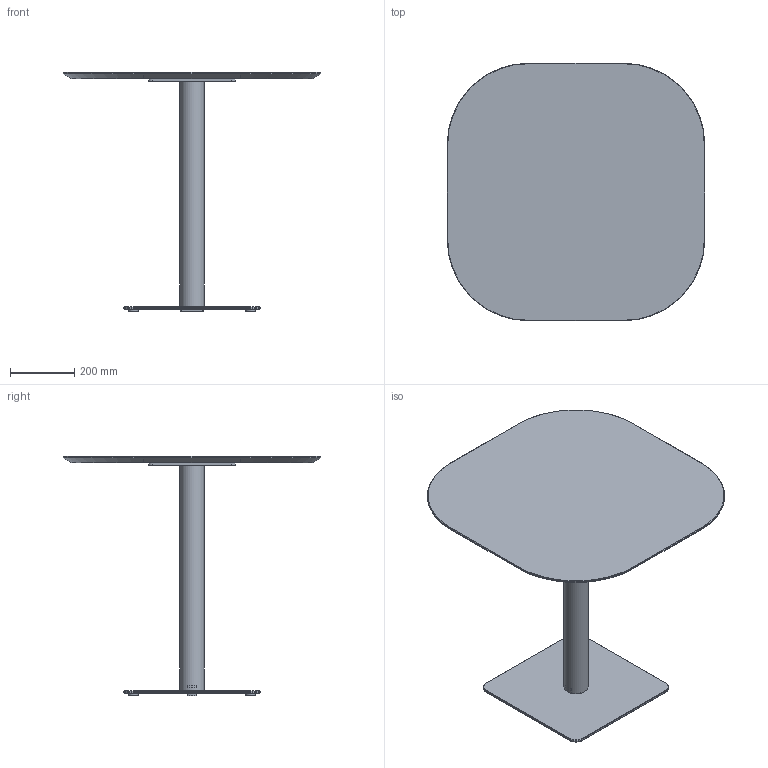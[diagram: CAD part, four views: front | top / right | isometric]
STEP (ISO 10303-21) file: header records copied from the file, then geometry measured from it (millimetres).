
FILE_DESCRIPTION( ('This file contains a STEP AP42 implementation' ,'as created by ZW3D STEP Interface translator.') ,'2;1' );
FILE_NAME( 'Henri - B_Carré - F2 - M5 - 800 x 800 x 750.stp' ,'24 912.1659 5', (''), ('ZWCAD Software Co.'), 'Version 1.0', 'ZW3D to STEP translator', '' );
FILE_SCHEMA(('AUTOMOTIVE_DESIGN { 1 0 10303 214 1 1 1 1 }'));
Length unit declared in the file: millimetre
Products named in the file (14): 0; PIED BISTROT PARAMETRIQUE_; COLONNE ACIER Ø76 V.02_; TUB-D076-02_; PLA-R76B-01_; CROIX ACIER 370 V.02_; CRX-X370-02_; SOCLE ACIER L 425x425 V.02_; SCL-R425-02_; PLA-R30A-01_; PLA-R30A-01; WUERTH 0276063020 Euro-screw 6.3x2 Verzinkt_; PLATEAU BISTROT PARAMETRIQUE_; insert_m6_13_
Assembly tree (22 placements, depth 3):
  0
  PIED BISTROT PARAMETRIQUE_
    COLONNE ACIER Ø76 V.02_
      TUB-D076-02_
      PLA-R76B-01_  x2
    CROIX ACIER 370 V.02_
      CRX-X370-02_
    SOCLE ACIER L 425x425 V.02_
      SCL-R425-02_
      PLA-R30A-01_
      PLA-R30A-01  x3
    WUERTH 0276063020 Euro-screw 6.3x2 Verzinkt_
    PLATEAU BISTROT PARAMETRIQUE_
      insert_m6_13_  x8
Bounding box: 800 x 800 x 744 mm (x, y, z)
Volume: 13572375.9 mm3; surface area: 2088208.2 mm2
Topology: 19 solids, 19 shells, 537 faces, 1310 edges, 822 vertices
Faces by surface type: plane 262, bspline 121, cylinder 98, cone 55, torus 1
Full cylindrical faces by diameter (mm): 4.88 x1, 6 x8, 6.3 x1, 8 x45, 12 x2, 14 x2, 30 x4, 72 x1, 76 x1
Entity records: 12310 total; most frequent: CARTESIAN_POINT 3396, ORIENTED_EDGE 1624, DIRECTION 1519, EDGE_CURVE 812, VERTEX_POINT 518, VECTOR 513, LINE 513, AXIS2_PLACEMENT_3D 503
